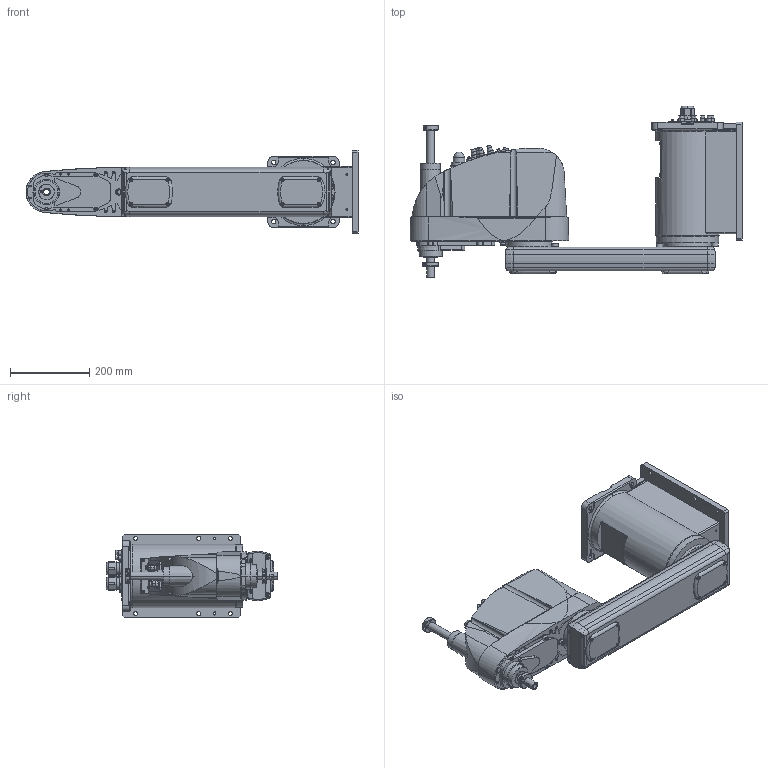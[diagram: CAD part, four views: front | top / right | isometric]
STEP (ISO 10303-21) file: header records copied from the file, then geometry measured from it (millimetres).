
FILE_DESCRIPTION( ( '' ), '1' );
FILE_NAME( '//expscmdclustefs.cadenas.external/client_exchange/iodir/jobs/output/wkb51546000_no0/STEP/G6_651SW_2_03.stp', '2012-11-23T12:56:11', ( '' ), ( '' ), ' ', ' ', ' ' );
FILE_SCHEMA( ( 'CONFIG_CONTROL_DESIGN' ) );
Length unit declared in the file: millimetre
Products named in the file (4): 1; 2; 3; 4
Bounding box: 840 x 434.5 x 210 mm (x, y, z)
Volume: 21821533 mm3; surface area: 974094.5 mm2
Topology: 4 solids, 4 shells, 1642 faces, 4038 edges, 2592 vertices
Faces by surface type: plane 844, cylinder 564, cone 202, torus 31, sphere 1
Entity records: 51594 total; most frequent: CARTESIAN_POINT 11769, DIRECTION 8484, ORIENTED_EDGE 8024, EDGE_CURVE 4012, AXIS2_PLACEMENT_3D 3027, VERTEX_POINT 2592, LINE 2430, VECTOR 2430
